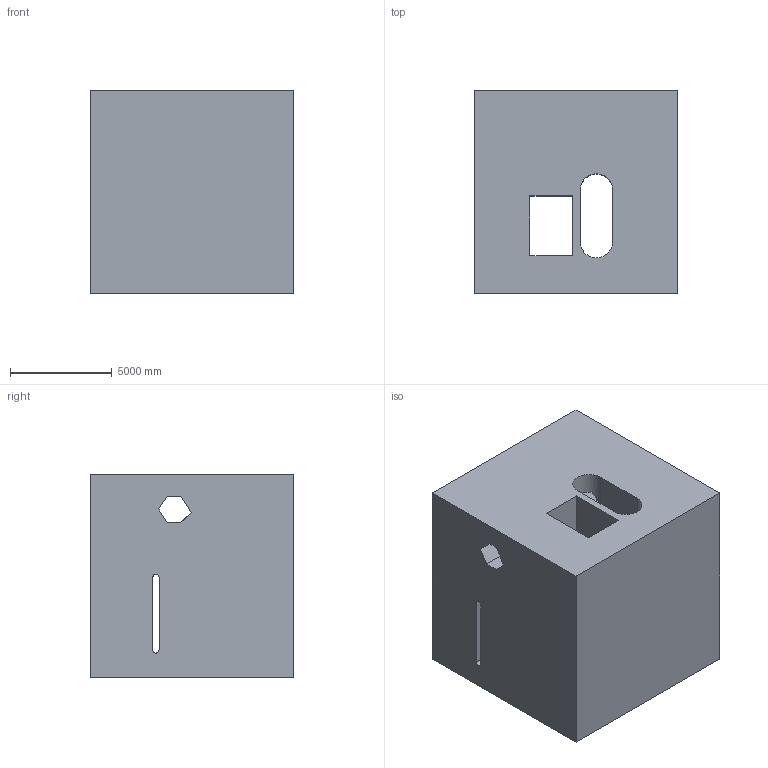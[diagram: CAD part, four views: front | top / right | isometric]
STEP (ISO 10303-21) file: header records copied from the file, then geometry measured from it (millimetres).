
FILE_DESCRIPTION (( 'STEP AP203' ), '1' );
FILE_NAME ('39.STEP', '2022-09-02T13:47:23', ( 'user' ), ( '' ), 'SwSTEP 2.0', 'SolidWorks 2021', '' );
FILE_SCHEMA (( 'CONFIG_CONTROL_DESIGN' ));
Length unit declared in the file: centimetre
Products named in the file (1): 39
Bounding box: 10000 x 10000 x 10000 mm (x, y, z)
Volume: 851656815245 mm3; surface area: 893293877.8 mm2
Topology: 1 solids, 1 shells, 28 faces, 84 edges, 56 vertices
Faces by surface type: plane 22, cylinder 6
Entity records: 1037 total; most frequent: CARTESIAN_POINT 181, ORIENTED_EDGE 168, DIRECTION 150, EDGE_CURVE 84, VECTOR 68, LINE 68, VERTEX_POINT 56, AXIS2_PLACEMENT_3D 41
